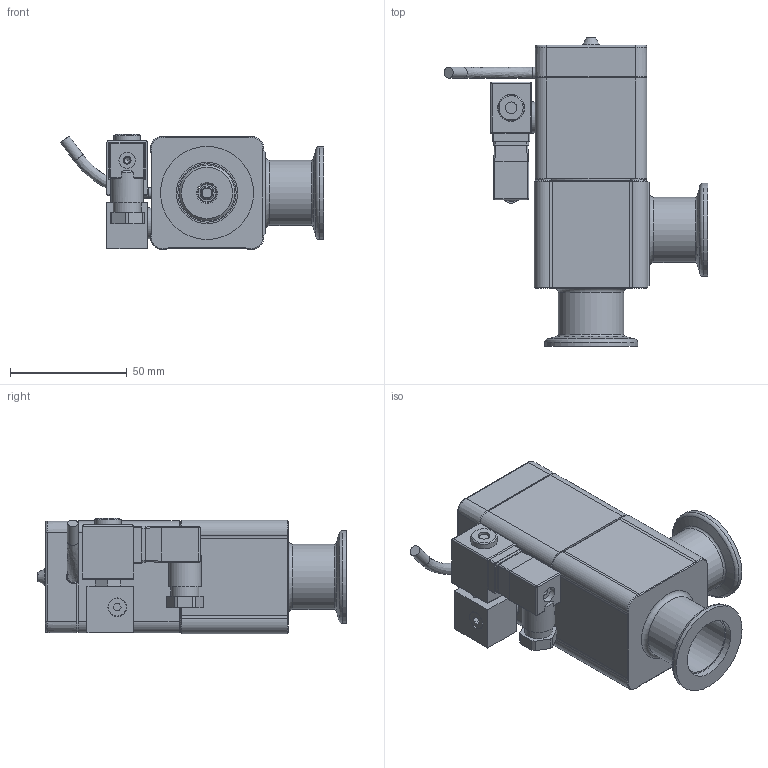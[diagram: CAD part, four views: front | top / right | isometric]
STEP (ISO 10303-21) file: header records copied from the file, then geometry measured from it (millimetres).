
FILE_DESCRIPTION(/* description */ (''),/* implementation_level */ '2;1');
FILE_NAME(/* name */ '1079869196_203.stp',/* time_stamp */ '2013-07-16T13:48:34+02:00',/* author */ (''),/* organization */ (''),/* preprocessor_version */ 'ST-DEVELOPER v11',/* originating_system */ 'SIEMENS PLM Software NX 7.5',/* authorisation */ '');
FILE_SCHEMA (('AP203_CONFIGURATION_CONTROLLED_3D_DESIGN_OF_MECHANICAL_PARTS_AND_ASSEMBLIES_MIM_LF'));
Length unit declared in the file: millimetre
Products named in the file (14): 233359; 236208.2; 236204_1.1; 239888_3.2; 238513.2; 238512.3; 239359.4; 245188.1; 243878.2; 232362.12; 238487.6; 233248_NX-ARRAGMNTLAGEMELDERZEICHNUNG; 235683.15_NX-ARRAGMNTZUSAMMENST1; 370512
Assembly tree (18 placements, depth 3):
  370512
    238487.6
    235683.15_NX-ARRAGMNTZUSAMMENST1
      238512.3
      238513.2
    232362.12
    243878.2
    245188.1  x4
    239359.4
    233248_NX-ARRAGMNTLAGEMELDERZEICHNUNG
      239888_3.2
      236204_1.1  x2
      236208.2  x2
      233359
Bounding box: 112.88 x 132.51 x 49.39 mm (x, y, z)
Volume: 166488.5 mm3; surface area: 83845.6 mm2
Topology: 25 solids, 25 shells, 815 faces, 1926 edges, 1236 vertices
Faces by surface type: plane 460, cylinder 209, cone 101, bspline 27, torus 12, sphere 6
Full cylindrical faces by diameter (mm): 1.4 x4, 2 x6, 2.2 x4, 2.5 x4, 2.95 x1, 3 x8, 3.2 x4, 3.26 x4, 3.3 x5, 4 x12, 4.2 x1, 4.4 x1, 4.5 x4, 4.7 x3, 5 x4, 5.1 x1, 5.6 x2, 6 x4, 7 x5, 7.4 x2, 7.6 x1, 7.9 x1, 7.975 x3, 8 x6, 8.012 x2, 9.25 x1, 10.2 x1, 11.3 x1, 11.4 x1, 11.5 x2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
Entity records: 22222 total; most frequent: CARTESIAN_POINT 4426, DIRECTION 3260, ORIENTED_EDGE 2934, EDGE_CURVE 1467, AXIS2_PLACEMENT_3D 1177, VERTEX_POINT 1048, EDGE_LOOP 994, LINE 906
